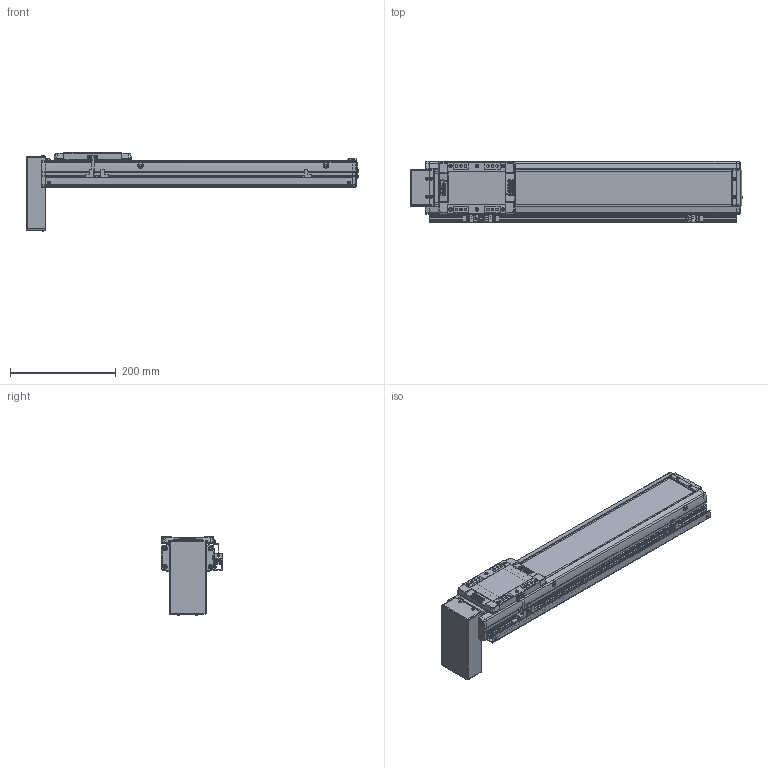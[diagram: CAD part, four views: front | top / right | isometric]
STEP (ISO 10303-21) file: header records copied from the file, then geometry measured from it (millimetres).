
FILE_DESCRIPTION(('STEP AP214'),'1');
FILE_NAME('Z:/Web/3D/SAN100/SAN100 양산용 (STEP)/SAN100ㅁㅁ-400PB+3SR.stp','2013-04-25T09:34:32',(' '),(' '),'Spatial InterOp 3D',' ',' ');
FILE_SCHEMA(('automotive_design'));
Length unit declared in the file: millimetre
Products named in the file (55): EE-SX674; SBK-SX674-352; 스크루 : Round - M3.0 x 6.0; M3.0 x 6.0; SRL-16x17-380L; SGD-SAN100; SUS COVER; SFX-SAN100; RRCV-SAN100; 스크루 : Round - M4.0 x 10.0; FRBL-SAN100; SLBL-SAN100; SLCV-SAN100; 스크루 : Countersunk - M3.0 x 6.0; BASE; 스크루 : Round - M5.0 x 6.0; BTCV-SAN100; FRCV-SAN100
Bounding box: 626.5 x 116 x 148.36 mm (x, y, z)
Volume: 2069667.1 mm3; surface area: 541424.6 mm2
Topology: 55 solids, 58 shells, 2517 faces, 6526 edges, 4227 vertices
Faces by surface type: plane 1364, cylinder 829, cone 210, sphere 72, torus 30, bspline 12
Entity records: 98822 total; most frequent: CARTESIAN_POINT 14439, DIRECTION 13811, ORIENTED_EDGE 12888, EDGE_CURVE 6444, AXIS2_PLACEMENT_3D 4900, VERTEX_POINT 4227, LINE 4011, VECTOR 4011
